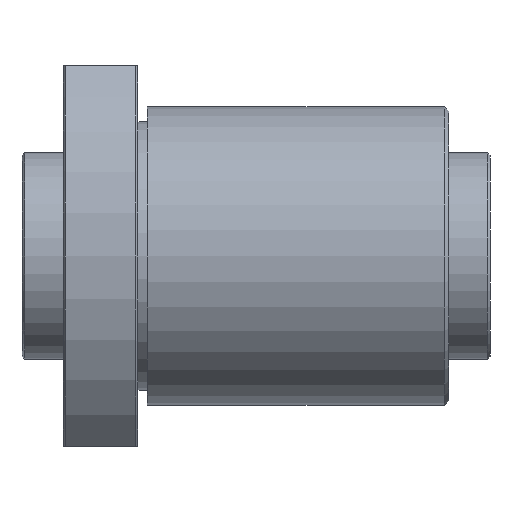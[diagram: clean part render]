
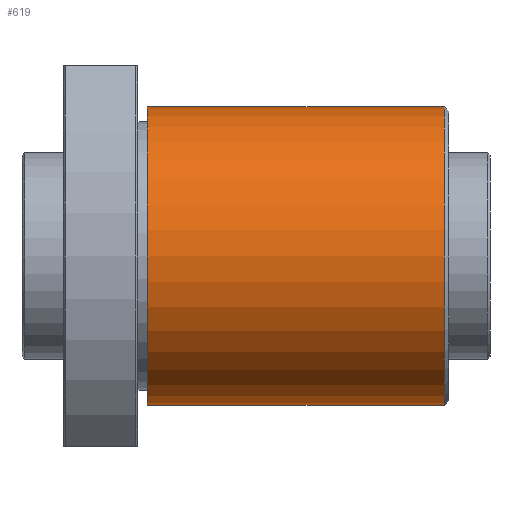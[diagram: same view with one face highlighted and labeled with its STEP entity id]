
A CAD part, front view. The second image highlights one B-rep face of the part: STEP entity #619.
In plain terms, the highlighted cylindrical face has radius 36 mm (diameter 72 mm), a full revolution.
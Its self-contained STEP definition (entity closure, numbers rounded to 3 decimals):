
#61=CYLINDRICAL_SURFACE('',#724,36.);
#152=ORIENTED_EDGE('',*,*,#270,.T.);
#153=ORIENTED_EDGE('',*,*,#269,.F.);
#269=EDGE_CURVE('',#328,#328,#377,.T.);
#270=EDGE_CURVE('',#329,#329,#378,.T.);
#328=VERTEX_POINT('',#1137);
#329=VERTEX_POINT('',#1140);
#377=CIRCLE('',#723,36.);
#378=CIRCLE('',#725,36.);
#435=EDGE_LOOP('',(#152));
#436=EDGE_LOOP('',(#153));
#531=FACE_BOUND('',#435,.T.);
#532=FACE_BOUND('',#436,.T.);
#619=ADVANCED_FACE('',(#531,#532),#61,.T.);
#723=AXIS2_PLACEMENT_3D('',#1136,#878,#879);
#724=AXIS2_PLACEMENT_3D('',#1138,#880,#881);
#725=AXIS2_PLACEMENT_3D('',#1139,#882,#883);
#878=DIRECTION('',(1.,0.,0.));
#879=DIRECTION('',(0.,0.,-1.));
#880=DIRECTION('',(1.,0.,0.));
#881=DIRECTION('',(0.,0.,-1.));
#882=DIRECTION('',(1.,0.,0.));
#883=DIRECTION('',(0.,0.,-1.));
#1136=CARTESIAN_POINT('',(92.,0.,0.));
#1137=CARTESIAN_POINT('',(92.,0.,-36.));
#1138=CARTESIAN_POINT('',(50.,0.,0.));
#1139=CARTESIAN_POINT('',(20.3,0.,0.));
#1140=CARTESIAN_POINT('',(20.3,0.,-36.));
